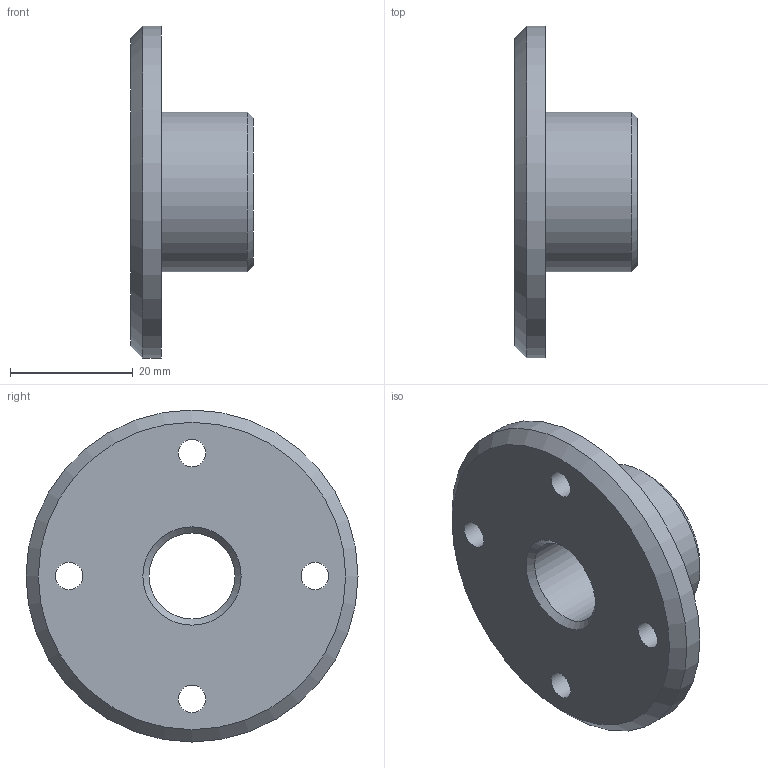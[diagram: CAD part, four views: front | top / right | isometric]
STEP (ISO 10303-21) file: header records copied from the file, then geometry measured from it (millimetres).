
FILE_DESCRIPTION(/* description */ (''),/* implementation_level */ '2;1');
FILE_NAME(/* name */ '',/* time_stamp */ '2025-08-05T14:08:58+09:00',/* author */ ('jhkim'),/* organization */ (''),/* preprocessor_version */ 'ST-DEVELOPER v20.1',/* originating_system */ 'Autodesk Inventor 2026',/* authorisation */ '');
FILE_SCHEMA (('AUTOMOTIVE_DESIGN { 1 0 10303 214 3 1 1 }'));
Length unit declared in the file: millimetre
Products named in the file (1): 상부커버
Bounding box: 20 x 54 x 54 mm (x, y, z)
Volume: 15601.4 mm3; surface area: 7079.1 mm2
Topology: 1 solids, 1 shells, 14 faces, 32 edges, 21 vertices
Faces by surface type: cylinder 7, cone 4, plane 3
Full cylindrical faces by diameter (mm): 4.5 x4, 14 x1, 26 x1, 54 x1
Entity records: 472 total; most frequent: DIRECTION 83, CARTESIAN_POINT 68, ORIENTED_EDGE 64, AXIS2_PLACEMENT_3D 36, EDGE_CURVE 32, EDGE_LOOP 25, CIRCLE 21, VERTEX_POINT 21
